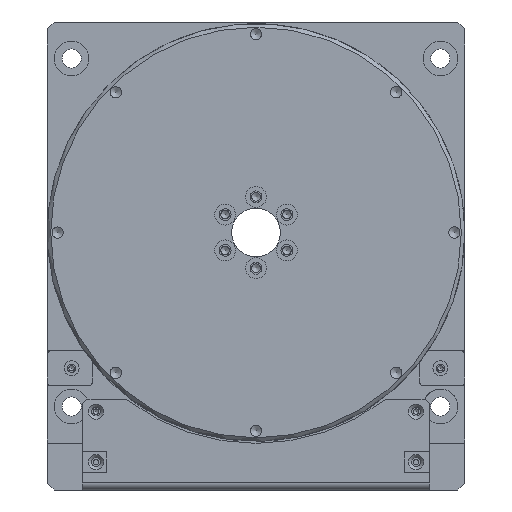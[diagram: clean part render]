
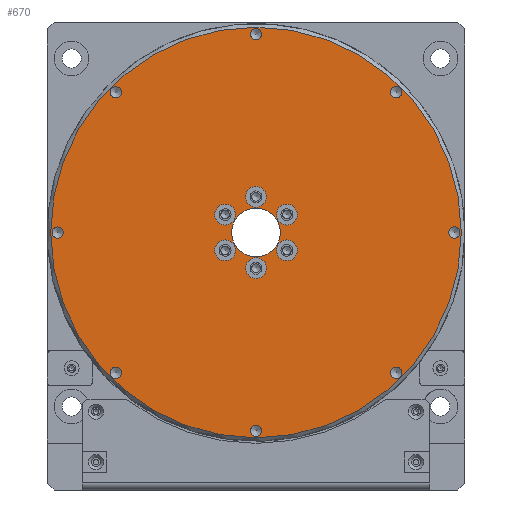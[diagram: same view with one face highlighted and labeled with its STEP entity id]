
A CAD part, front view. The second image highlights one B-rep face of the part: STEP entity #670.
In plain terms, the highlighted planar face has unit normal (0, -1, 0).
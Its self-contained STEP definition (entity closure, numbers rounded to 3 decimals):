
#670 = ADVANCED_FACE( '', ( #1614, #1615, #1616, #1617, #1618, #1619, #1620, #1621, #1622, #1623, #1624, #1625, #1626, #1627, #1628, #1629 ), #1630, .T. );
#1614 = FACE_BOUND( '', #2857, .T. );
#1615 = FACE_BOUND( '', #2858, .T. );
#1616 = FACE_BOUND( '', #2859, .T. );
#1617 = FACE_BOUND( '', #2860, .T. );
#1618 = FACE_BOUND( '', #2861, .T. );
#1619 = FACE_BOUND( '', #2862, .T. );
#1620 = FACE_BOUND( '', #2863, .T. );
#1621 = FACE_BOUND( '', #2864, .T. );
#1622 = FACE_OUTER_BOUND( '', #2865, .T. );
#1623 = FACE_BOUND( '', #2866, .T. );
#1624 = FACE_BOUND( '', #2867, .T. );
#1625 = FACE_BOUND( '', #2868, .T. );
#1626 = FACE_BOUND( '', #2869, .T. );
#1627 = FACE_BOUND( '', #2870, .T. );
#1628 = FACE_BOUND( '', #2871, .T. );
#1629 = FACE_BOUND( '', #2872, .T. );
#1630 = PLANE( '', #2873 );
#2857 = EDGE_LOOP( '', ( #4714 ) );
#2858 = EDGE_LOOP( '', ( #4715 ) );
#2859 = EDGE_LOOP( '', ( #4716 ) );
#2860 = EDGE_LOOP( '', ( #4717 ) );
#2861 = EDGE_LOOP( '', ( #4718 ) );
#2862 = EDGE_LOOP( '', ( #4719 ) );
#2863 = EDGE_LOOP( '', ( #4720 ) );
#2864 = EDGE_LOOP( '', ( #4721 ) );
#2865 = EDGE_LOOP( '', ( #4722 ) );
#2866 = EDGE_LOOP( '', ( #4723 ) );
#2867 = EDGE_LOOP( '', ( #4724 ) );
#2868 = EDGE_LOOP( '', ( #4725 ) );
#2869 = EDGE_LOOP( '', ( #4726 ) );
#2870 = EDGE_LOOP( '', ( #4727 ) );
#2871 = EDGE_LOOP( '', ( #4728 ) );
#2872 = EDGE_LOOP( '', ( #4729 ) );
#2873 = AXIS2_PLACEMENT_3D( '', #4730, #4731, #4732 );
#4714 = ORIENTED_EDGE( '', *, *, #6624, .T. );
#4715 = ORIENTED_EDGE( '', *, *, #6480, .T. );
#4716 = ORIENTED_EDGE( '', *, *, #6667, .T. );
#4717 = ORIENTED_EDGE( '', *, *, #6668, .T. );
#4718 = ORIENTED_EDGE( '', *, *, #6571, .T. );
#4719 = ORIENTED_EDGE( '', *, *, #6072, .T. );
#4720 = ORIENTED_EDGE( '', *, *, #6669, .T. );
#4721 = ORIENTED_EDGE( '', *, *, #6670, .T. );
#4722 = ORIENTED_EDGE( '', *, *, #6671, .T. );
#4723 = ORIENTED_EDGE( '', *, *, #6318, .T. );
#4724 = ORIENTED_EDGE( '', *, *, #6672, .T. );
#4725 = ORIENTED_EDGE( '', *, *, #6423, .T. );
#4726 = ORIENTED_EDGE( '', *, *, #6300, .T. );
#4727 = ORIENTED_EDGE( '', *, *, #6633, .T. );
#4728 = ORIENTED_EDGE( '', *, *, #6270, .T. );
#4729 = ORIENTED_EDGE( '', *, *, #6673, .T. );
#4730 = CARTESIAN_POINT( '', ( 0., -14.7, 6.75 ) );
#4731 = DIRECTION( '', ( 0., -1., 0. ) );
#4732 = DIRECTION( '', ( 1., 0., 0. ) );
#6072 = EDGE_CURVE( '', #7056, #7056, #7057, .T. );
#6270 = EDGE_CURVE( '', #7386, #7386, #7387, .T. );
#6300 = EDGE_CURVE( '', #7435, #7435, #7436, .T. );
#6318 = EDGE_CURVE( '', #7464, #7464, #7465, .T. );
#6423 = EDGE_CURVE( '', #7631, #7631, #7632, .T. );
#6480 = EDGE_CURVE( '', #7720, #7720, #7721, .T. );
#6571 = EDGE_CURVE( '', #7860, #7860, #7861, .T. );
#6624 = EDGE_CURVE( '', #7937, #7937, #7938, .T. );
#6633 = EDGE_CURVE( '', #7948, #7948, #7949, .T. );
#6667 = EDGE_CURVE( '', #8001, #8001, #8002, .T. );
#6668 = EDGE_CURVE( '', #8003, #8003, #8004, .T. );
#6669 = EDGE_CURVE( '', #8005, #8005, #8006, .T. );
#6670 = EDGE_CURVE( '', #8007, #8007, #8008, .T. );
#6671 = EDGE_CURVE( '', #8009, #8009, #8010, .T. );
#6672 = EDGE_CURVE( '', #8011, #8011, #8012, .T. );
#6673 = EDGE_CURVE( '', #8013, #8013, #8014, .T. );
#7056 = VERTEX_POINT( '', #8473 );
#7057 = CIRCLE( '', #8474, 1.621 );
#7386 = VERTEX_POINT( '', #8896 );
#7387 = CIRCLE( '', #8897, 3. );
#7435 = VERTEX_POINT( '', #8957 );
#7436 = CIRCLE( '', #8958, 3. );
#7464 = VERTEX_POINT( '', #8988 );
#7465 = CIRCLE( '', #8989, 3. );
#7631 = VERTEX_POINT( '', #9297 );
#7632 = CIRCLE( '', #9298, 3. );
#7720 = VERTEX_POINT( '', #9408 );
#7721 = CIRCLE( '', #9409, 1.621 );
#7860 = VERTEX_POINT( '', #9598 );
#7861 = CIRCLE( '', #9599, 1.621 );
#7937 = VERTEX_POINT( '', #9693 );
#7938 = CIRCLE( '', #9694, 1.621 );
#7948 = VERTEX_POINT( '', #9707 );
#7949 = CIRCLE( '', #9708, 3. );
#8001 = VERTEX_POINT( '', #9769 );
#8002 = CIRCLE( '', #9770, 1.621 );
#8003 = VERTEX_POINT( '', #9771 );
#8004 = CIRCLE( '', #9772, 1.621 );
#8005 = VERTEX_POINT( '', #9773 );
#8006 = CIRCLE( '', #9774, 1.621 );
#8007 = VERTEX_POINT( '', #9775 );
#8008 = CIRCLE( '', #9776, 1.621 );
#8009 = VERTEX_POINT( '', #9777 );
#8010 = CIRCLE( '', #9778, 59. );
#8011 = VERTEX_POINT( '', #9779 );
#8012 = CIRCLE( '', #9780, 3. );
#8013 = VERTEX_POINT( '', #9781 );
#8014 = CIRCLE( '', #9782, 7. );
#8473 = CARTESIAN_POINT( '', ( 58.621, -14.7, 6.766 ) );
#8474 = AXIS2_PLACEMENT_3D( '', #10347, #10348, #10349 );
#8896 = CARTESIAN_POINT( '', ( 3.003, -14.7, -3.499 ) );
#8897 = AXIS2_PLACEMENT_3D( '', #10622, #10623, #10624 );
#8957 = CARTESIAN_POINT( '', ( -5.878, -14.7, 11.873 ) );
#8958 = AXIS2_PLACEMENT_3D( '', #10667, #10668, #10669 );
#8988 = CARTESIAN_POINT( '', ( 11.878, -14.7, 1.628 ) );
#8989 = AXIS2_PLACEMENT_3D( '', #10699, #10700, #10701 );
#9297 = CARTESIAN_POINT( '', ( 2.997, -14.7, 17.001 ) );
#9298 = AXIS2_PLACEMENT_3D( '', #10839, #10840, #10841 );
#9408 = CARTESIAN_POINT( '', ( -55.379, -14.7, 6.735 ) );
#9409 = AXIS2_PLACEMENT_3D( '', #10918, #10919, #10920 );
#9598 = CARTESIAN_POINT( '', ( 41.937, -14.7, -33.543 ) );
#9599 = AXIS2_PLACEMENT_3D( '', #11036, #11037, #11038 );
#9693 = CARTESIAN_POINT( '', ( -38.695, -14.7, 47.044 ) );
#9694 = AXIS2_PLACEMENT_3D( '', #11117, #11118, #11119 );
#9707 = CARTESIAN_POINT( '', ( -5.875, -14.7, 1.623 ) );
#9708 = AXIS2_PLACEMENT_3D( '', #11126, #11127, #11128 );
#9769 = CARTESIAN_POINT( '', ( -38.673, -14.7, -33.566 ) );
#9770 = AXIS2_PLACEMENT_3D( '', #11177, #11178, #11179 );
#9771 = CARTESIAN_POINT( '', ( 1.637, -14.7, -50.25 ) );
#9772 = AXIS2_PLACEMENT_3D( '', #11180, #11181, #11182 );
#9773 = CARTESIAN_POINT( '', ( 41.915, -14.7, 47.067 ) );
#9774 = AXIS2_PLACEMENT_3D( '', #11183, #11184, #11185 );
#9775 = CARTESIAN_POINT( '', ( 1.605, -14.7, 63.75 ) );
#9776 = AXIS2_PLACEMENT_3D( '', #11186, #11187, #11188 );
#9777 = CARTESIAN_POINT( '', ( 59., -14.7, 6.766 ) );
#9778 = AXIS2_PLACEMENT_3D( '', #11189, #11190, #11191 );
#9779 = CARTESIAN_POINT( '', ( 11.875, -14.7, 11.878 ) );
#9780 = AXIS2_PLACEMENT_3D( '', #11192, #11193, #11194 );
#9781 = CARTESIAN_POINT( '', ( 7., -14.7, 6.752 ) );
#9782 = AXIS2_PLACEMENT_3D( '', #11195, #11196, #11197 );
#10347 = CARTESIAN_POINT( '', ( 57., -14.7, 6.766 ) );
#10348 = DIRECTION( '', ( 0., 1., 0. ) );
#10349 = DIRECTION( '', ( 1., 0., 0. ) );
#10622 = CARTESIAN_POINT( '', ( 0.003, -14.7, -3.5 ) );
#10623 = DIRECTION( '', ( 0., 1., 0. ) );
#10624 = DIRECTION( '', ( 1., 0., 0. ) );
#10667 = CARTESIAN_POINT( '', ( -8.878, -14.7, 11.873 ) );
#10668 = DIRECTION( '', ( 0., 1., 0. ) );
#10669 = DIRECTION( '', ( 1., 0., 0. ) );
#10699 = CARTESIAN_POINT( '', ( 8.878, -14.7, 1.627 ) );
#10700 = DIRECTION( '', ( 0., 1., 0. ) );
#10701 = DIRECTION( '', ( 1., 0., 0. ) );
#10839 = CARTESIAN_POINT( '', ( -0.003, -14.7, 17. ) );
#10840 = DIRECTION( '', ( 0., 1., 0. ) );
#10841 = DIRECTION( '', ( 1., 0., 0. ) );
#10918 = CARTESIAN_POINT( '', ( -57., -14.7, 6.734 ) );
#10919 = DIRECTION( '', ( 0., 1., 0. ) );
#10920 = DIRECTION( '', ( 1., 0., 0. ) );
#11036 = CARTESIAN_POINT( '', ( 40.316, -14.7, -33.544 ) );
#11037 = DIRECTION( '', ( 0., 1., 0. ) );
#11038 = DIRECTION( '', ( 1., 0., 0. ) );
#11117 = CARTESIAN_POINT( '', ( -40.316, -14.7, 47.044 ) );
#11118 = DIRECTION( '', ( 0., 1., 0. ) );
#11119 = DIRECTION( '', ( 1., 0., 0. ) );
#11126 = CARTESIAN_POINT( '', ( -8.875, -14.7, 1.623 ) );
#11127 = DIRECTION( '', ( 0., 1., 0. ) );
#11128 = DIRECTION( '', ( 1., 0., 0. ) );
#11177 = CARTESIAN_POINT( '', ( -40.294, -14.7, -33.566 ) );
#11178 = DIRECTION( '', ( 0., 1., 0. ) );
#11179 = DIRECTION( '', ( 1., 0., 0. ) );
#11180 = CARTESIAN_POINT( '', ( 0.016, -14.7, -50.25 ) );
#11181 = DIRECTION( '', ( 0., 1., 0. ) );
#11182 = DIRECTION( '', ( 1., 0., 0. ) );
#11183 = CARTESIAN_POINT( '', ( 40.294, -14.7, 47.066 ) );
#11184 = DIRECTION( '', ( 0., 1., 0. ) );
#11185 = DIRECTION( '', ( 1., 0., 0. ) );
#11186 = CARTESIAN_POINT( '', ( -0.016, -14.7, 63.75 ) );
#11187 = DIRECTION( '', ( 0., 1., 0. ) );
#11188 = DIRECTION( '', ( 1., 0., 0. ) );
#11189 = CARTESIAN_POINT( '', ( 0., -14.7, 6.75 ) );
#11190 = DIRECTION( '', ( 0., -1., 0. ) );
#11191 = DIRECTION( '', ( 1., 0., 0. ) );
#11192 = CARTESIAN_POINT( '', ( 8.875, -14.7, 11.877 ) );
#11193 = DIRECTION( '', ( 0., 1., 0. ) );
#11194 = DIRECTION( '', ( 1., 0., 0. ) );
#11195 = CARTESIAN_POINT( '', ( 0., -14.7, 6.75 ) );
#11196 = DIRECTION( '', ( 0., 1., 0. ) );
#11197 = DIRECTION( '', ( 1., 0., 0. ) );
